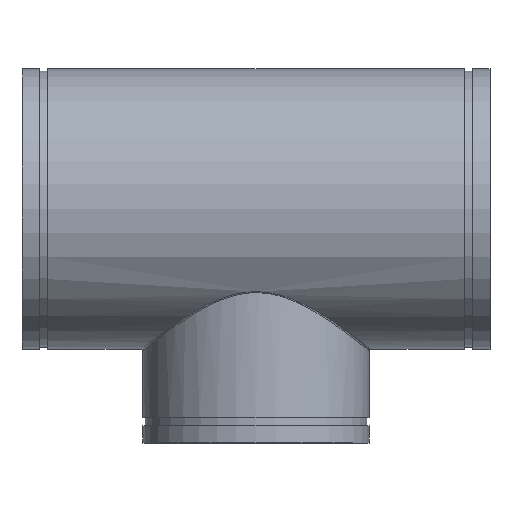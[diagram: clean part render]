
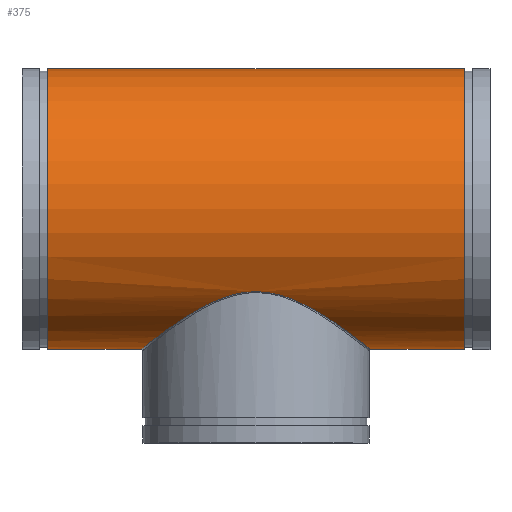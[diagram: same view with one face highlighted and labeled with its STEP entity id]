
A CAD part, top view. The second image highlights one B-rep face of the part: STEP entity #375.
In plain terms, the highlighted cylindrical face has radius 274.32 mm (diameter 548.64 mm), a full revolution.
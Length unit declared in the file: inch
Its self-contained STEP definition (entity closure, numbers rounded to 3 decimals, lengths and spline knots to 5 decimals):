
#54=FACE_BOUND('',#119,.T.);
#65=LINE('',#931,#76);
#76=VECTOR('',#483,10.8);
#87=CYLINDRICAL_SURFACE('',#415,10.8);
#98=FACE_OUTER_BOUND('',#118,.T.);
#118=EDGE_LOOP('',(#266,#267,#268,#269));
#119=EDGE_LOOP('',(#270));
#150=B_SPLINE_CURVE_WITH_KNOTS('',3,(#883,#884,#885,#886,#887,#888,#889,
#890,#891,#892,#893,#894,#895,#896,#897,#898,#899,#900,#901,#902,#903,#904,
#905,#906,#907,#908,#909,#910,#911,#912,#913,#914,#915,#916,#917,#918,#919,
#920,#921,#922,#923,#924,#925,#926),.UNSPECIFIED.,.T.,.F.,(4,1,1,1,1,1,
1,1,1,1,1,1,1,1,1,1,1,1,1,1,1,1,1,1,1,1,1,1,1,1,1,1,1,1,1,1,1,1,1,1,1,4),
(-142.99149,-140.43807,-137.88465,-135.33123,
-132.77782,-127.67098,-122.56414,-115.75502,-112.35046,
-108.9459,-108.09476,-107.24362,-105.54134,
-102.13678,-98.73222,-95.32766,-88.51854,
-85.11398,-81.70942,-78.30487,-74.90031,
-71.49575,-68.09119,-64.68663,-61.28207,
-57.87751,-54.47295,-49.93354,-45.39412,
-40.85471,-37.45015,-34.04559,-30.64103,
-27.23647,-26.10162,-20.42736,-15.32052,
-10.21368,-7.66026,-5.10684,-2.55342,
0.),.UNSPECIFIED.);
#154=CIRCLE('',#416,10.8);
#155=CIRCLE('',#417,10.8);
#182=VERTEX_POINT('',#831);
#185=VERTEX_POINT('',#928);
#186=VERTEX_POINT('',#930);
#219=EDGE_CURVE('',#182,#182,#150,.T.);
#220=EDGE_CURVE('',#185,#185,#154,.T.);
#221=EDGE_CURVE('',#185,#186,#65,.T.);
#222=EDGE_CURVE('',#186,#186,#155,.T.);
#266=ORIENTED_EDGE('',*,*,#220,.T.);
#267=ORIENTED_EDGE('',*,*,#221,.T.);
#268=ORIENTED_EDGE('',*,*,#222,.T.);
#269=ORIENTED_EDGE('',*,*,#221,.F.);
#270=ORIENTED_EDGE('',*,*,#219,.F.);
#375=ADVANCED_FACE('',(#98,#54),#87,.T.);
#415=AXIS2_PLACEMENT_3D('',#927,#479,#480);
#416=AXIS2_PLACEMENT_3D('',#929,#481,#482);
#417=AXIS2_PLACEMENT_3D('',#932,#484,#485);
#479=DIRECTION('center_axis',(-1.,0.,0.));
#480=DIRECTION('ref_axis',(0.,-1.,0.));
#481=DIRECTION('center_axis',(1.,0.,0.));
#482=DIRECTION('ref_axis',(0.,-1.,0.));
#483=DIRECTION('',(1.,0.,0.));
#484=DIRECTION('center_axis',(-1.,0.,0.));
#485=DIRECTION('ref_axis',(0.,-1.,0.));
#831=CARTESIAN_POINT('',(0.,-6.36642,-8.72403));
#883=CARTESIAN_POINT('Ctrl Pts',(0.,-6.36642,-8.72403));
#884=CARTESIAN_POINT('Ctrl Pts',(0.35044,-6.36642,-8.72403));
#885=CARTESIAN_POINT('Ctrl Pts',(1.05113,-6.42401,-8.68236));
#886=CARTESIAN_POINT('Ctrl Pts',(2.06194,-6.66361,-8.50208));
#887=CARTESIAN_POINT('Ctrl Pts',(3.01255,-7.01234,-8.21892));
#888=CARTESIAN_POINT('Ctrl Pts',(4.19479,-7.57078,-7.72044));
#889=CARTESIAN_POINT('Ctrl Pts',(5.51955,-8.36138,-6.88978));
#890=CARTESIAN_POINT('Ctrl Pts',(7.01844,-9.40005,-5.44049));
#891=CARTESIAN_POINT('Ctrl Pts',(8.04562,-10.18486,-3.77349));
#892=CARTESIAN_POINT('Ctrl Pts',(8.61265,-10.63043,-2.06007));
#893=CARTESIAN_POINT('Ctrl Pts',(8.77863,-10.76309,-1.03783));
#894=CARTESIAN_POINT('Ctrl Pts',(8.82037,-10.79628,-0.34651));
#895=CARTESIAN_POINT('Ctrl Pts',(8.8296,-10.8037,0.11532));
#896=CARTESIAN_POINT('Ctrl Pts',(8.79731,-10.77781,0.92372));
#897=CARTESIAN_POINT('Ctrl Pts',(8.61233,-10.63053,2.06031));
#898=CARTESIAN_POINT('Ctrl Pts',(8.18807,-10.29625,3.3442));
#899=CARTESIAN_POINT('Ctrl Pts',(7.38826,-9.68275,4.90574));
#900=CARTESIAN_POINT('Ctrl Pts',(6.30001,-8.88606,6.20546));
#901=CARTESIAN_POINT('Ctrl Pts',(4.99428,-8.04303,7.22787));
#902=CARTESIAN_POINT('Ctrl Pts',(3.90734,-7.42608,7.85581));
#903=CARTESIAN_POINT('Ctrl Pts',(2.7112,-6.87641,8.33591));
#904=CARTESIAN_POINT('Ctrl Pts',(1.40104,-6.47053,8.64938));
#905=CARTESIAN_POINT('Ctrl Pts',(-0.00007,-6.31404,8.76147));
#906=CARTESIAN_POINT('Ctrl Pts',(-1.40107,-6.47049,8.64939));
#907=CARTESIAN_POINT('Ctrl Pts',(-2.71115,-6.87646,8.33591));
#908=CARTESIAN_POINT('Ctrl Pts',(-3.90731,-7.42598,7.85583));
#909=CARTESIAN_POINT('Ctrl Pts',(-4.99401,-8.04301,7.22802));
#910=CARTESIAN_POINT('Ctrl Pts',(-6.08281,-8.74555,6.37564));
#911=CARTESIAN_POINT('Ctrl Pts',(-7.12323,-9.48517,5.24162));
#912=CARTESIAN_POINT('Ctrl Pts',(-8.02724,-10.17006,3.7644));
#913=CARTESIAN_POINT('Ctrl Pts',(-8.58784,-10.61088,2.21231));
#914=CARTESIAN_POINT('Ctrl Pts',(-8.83416,-10.80729,0.69654));
#915=CARTESIAN_POINT('Ctrl Pts',(-8.83426,-10.80737,-0.69631));
#916=CARTESIAN_POINT('Ctrl Pts',(-8.61243,-10.63048,-2.06039));
#917=CARTESIAN_POINT('Ctrl Pts',(-8.28224,-10.37055,-3.0588));
#918=CARTESIAN_POINT('Ctrl Pts',(-7.74102,-9.95237,-4.26792));
#919=CARTESIAN_POINT('Ctrl Pts',(-6.91891,-9.33089,-5.53643));
#920=CARTESIAN_POINT('Ctrl Pts',(-5.51938,-8.36137,-6.8901));
#921=CARTESIAN_POINT('Ctrl Pts',(-4.19504,-7.57088,-7.72019));
#922=CARTESIAN_POINT('Ctrl Pts',(-3.01257,-7.01235,-8.21897));
#923=CARTESIAN_POINT('Ctrl Pts',(-2.06194,-6.6636,-8.50204));
#924=CARTESIAN_POINT('Ctrl Pts',(-1.05112,-6.42401,-8.68238));
#925=CARTESIAN_POINT('Ctrl Pts',(-0.35044,-6.36642,-8.72403));
#926=CARTESIAN_POINT('Ctrl Pts',(0.,-6.36642,
-8.72403));
#927=CARTESIAN_POINT('Origin',(18.,0.,0.));
#928=CARTESIAN_POINT('',(-16.035,10.8,0.));
#929=CARTESIAN_POINT('Origin',(-16.035,0.,0.));
#930=CARTESIAN_POINT('',(16.035,10.8,0.));
#931=CARTESIAN_POINT('',(18.,10.8,0.));
#932=CARTESIAN_POINT('Origin',(16.035,0.,0.));
